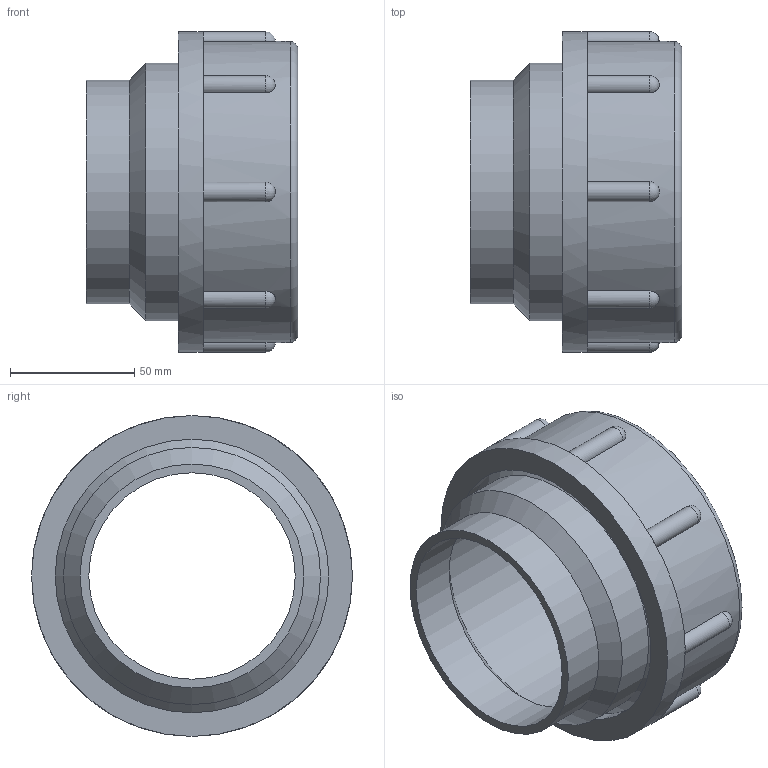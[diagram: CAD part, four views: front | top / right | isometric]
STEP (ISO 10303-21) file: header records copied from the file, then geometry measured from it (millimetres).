
FILE_DESCRIPTION((''),'2;1');
FILE_NAME('F:\Geberit_PE\Export\PE Verschraubung\stp\366740.stp','2011-03-17T20:59:22',(''),(''),'Autodesk Inventor 2011','Autodesk Inventor 2011','');
FILE_SCHEMA(('AUTOMOTIVE_DESIGN { 1 2 10303 214 0 1 1 1 }'));
Length unit declared in the file: millimetre
Products named in the file (1): 366740
Bounding box: 85 x 129 x 129 mm (x, y, z)
Volume: 294347.9 mm3; surface area: 83926.8 mm2
Topology: 2 solids, 2 shells, 51 faces, 139 edges, 83 vertices
Faces by surface type: cylinder 20, plane 14, cone 8, sphere 8, torus 1
Full cylindrical faces by diameter (mm): 83 x1, 90 x1, 91 x1, 91.2 x2, 103.4 x2, 103.5 x1, 110 x2, 121 x1, 129 x1
Entity records: 1660 total; most frequent: CARTESIAN_POINT 419, DIRECTION 272, ORIENTED_EDGE 216, AXIS2_PLACEMENT_3D 128, EDGE_CURVE 108, VERTEX_POINT 83, EDGE_LOOP 78, CIRCLE 76
